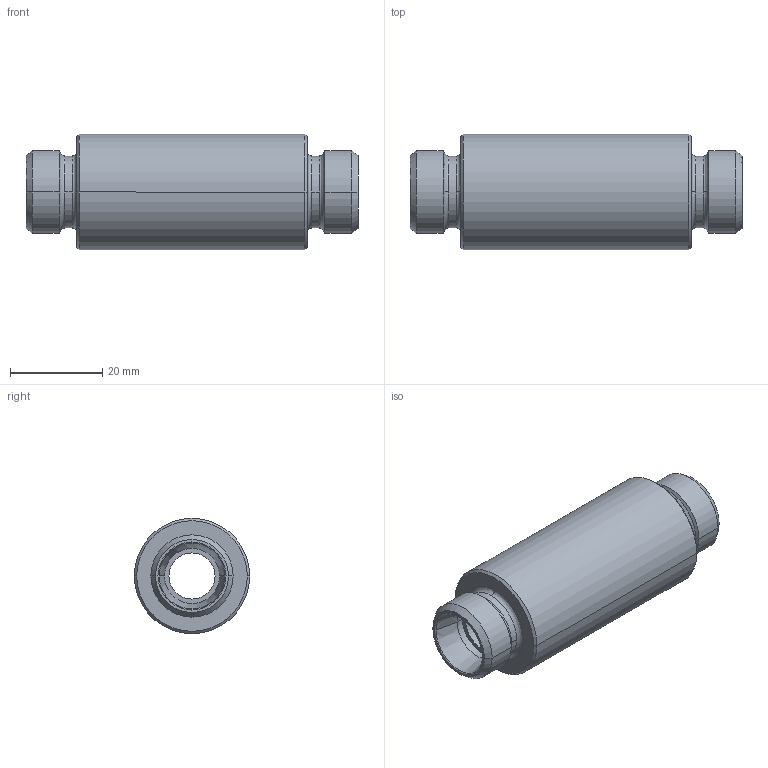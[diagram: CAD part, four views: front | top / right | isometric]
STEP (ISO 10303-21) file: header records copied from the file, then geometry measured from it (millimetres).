
FILE_DESCRIPTION((''),'2;1');
FILE_NAME('105607.stp','2007-10-31T14:16:36',(''),(''),'AutoCAD STEP 2000i','AutoCAD 2000i',', , ');
FILE_SCHEMA(('CONFIG_CONTROL_DESIGN'));
Length unit declared in the file: millimetre
Products named in the file (2): 105607.0; BARRA TONDA#0
Assembly tree (1 placements, depth 2):
  105607.0
    BARRA TONDA#0
Bounding box: 72 x 25 x 25 mm (x, y, z)
Volume: 23159.2 mm3; surface area: 8243.7 mm2
Topology: 1 solids, 1 shells, 50 faces, 120 edges, 76 vertices
Faces by surface type: cone 16, cylinder 16, bspline 8, plane 6, torus 4
Entity records: 1929 total; most frequent: CARTESIAN_POINT 600, DIRECTION 296, ORIENTED_EDGE 240, AXIS2_PLACEMENT_3D 132, EDGE_CURVE 120, CIRCLE 88, VERTEX_POINT 76, EDGE_LOOP 56
